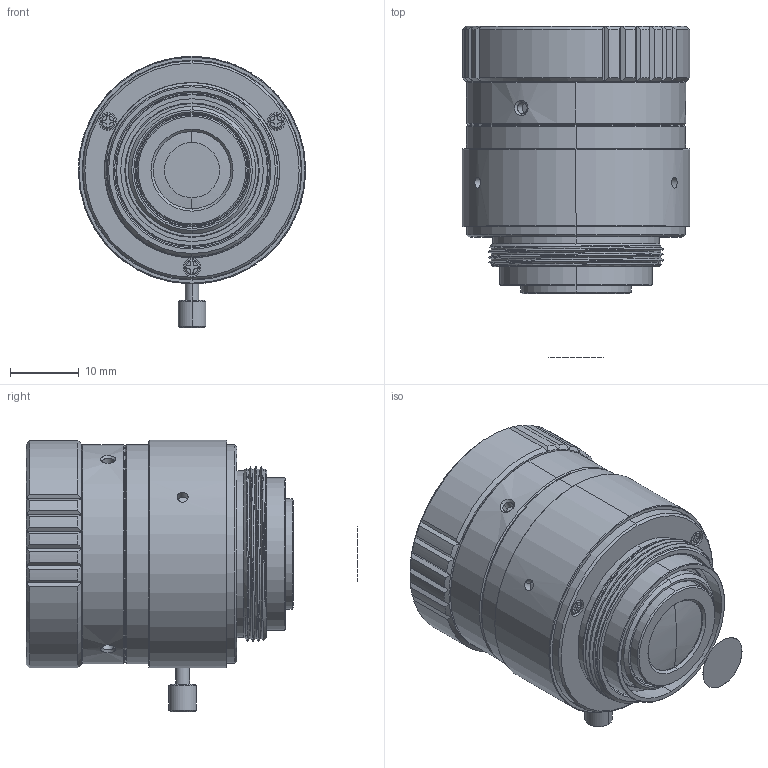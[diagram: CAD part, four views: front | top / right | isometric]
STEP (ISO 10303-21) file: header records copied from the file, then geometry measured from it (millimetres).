
FILE_DESCRIPTION((''),'2;1');
FILE_NAME('PHX-35B-00_ASM','2020-11-16T',('sirtec'),(''),'CREO PARAMETRIC BY PTC INC, 2014190','CREO PARAMETRIC BY PTC INC, 2014190','');
FILE_SCHEMA(('CONFIG_CONTROL_DESIGN'));
Length unit declared in the file: millimetre
Products named in the file (17): PHX-35B-201; PHX-16-305_ASM; PHX-35-101; PHX-35B-301; PHX-35B-202; PHX-35-403; PHX-35-401; PHX-35-109; PHX-16-203; PHX-35-G1; PHX-35-G7; PHX-35-102; PHX-35-108; PHX-16-501; PHX-35-XM; PHX-16-502; PHX-35B-00_ASM
Assembly tree (19 placements, depth 2):
  PHX-35B-00_ASM
    PHX-35B-201
    PHX-16-305_ASM
    PHX-35-101
    PHX-35B-301
    PHX-35B-202
    PHX-35-403
    PHX-35-401
    PHX-35-109
    PHX-16-203
    PHX-35-G1
    PHX-35-G7
    PHX-35-102
    PHX-35-108
    PHX-16-501  x2
    PHX-35-XM
    PHX-16-502  x3
Bounding box: 33 x 48.12 x 39.34 mm (x, y, z)
Volume: 16444.8 mm3; surface area: 25933.8 mm2
Topology: 18 solids, 18 shells, 760 faces, 1772 edges, 1072 vertices
Faces by surface type: cylinder 292, cone 226, plane 173, bspline 55, sphere 8, torus 6
Entity records: 32986 total; most frequent: CARTESIAN_POINT 17171, DIRECTION 3252, ORIENTED_EDGE 3192, EDGE_CURVE 1596, AXIS2_PLACEMENT_3D 1334, VERTEX_POINT 970, EDGE_LOOP 794, FACE_OUTER_BOUND 691
